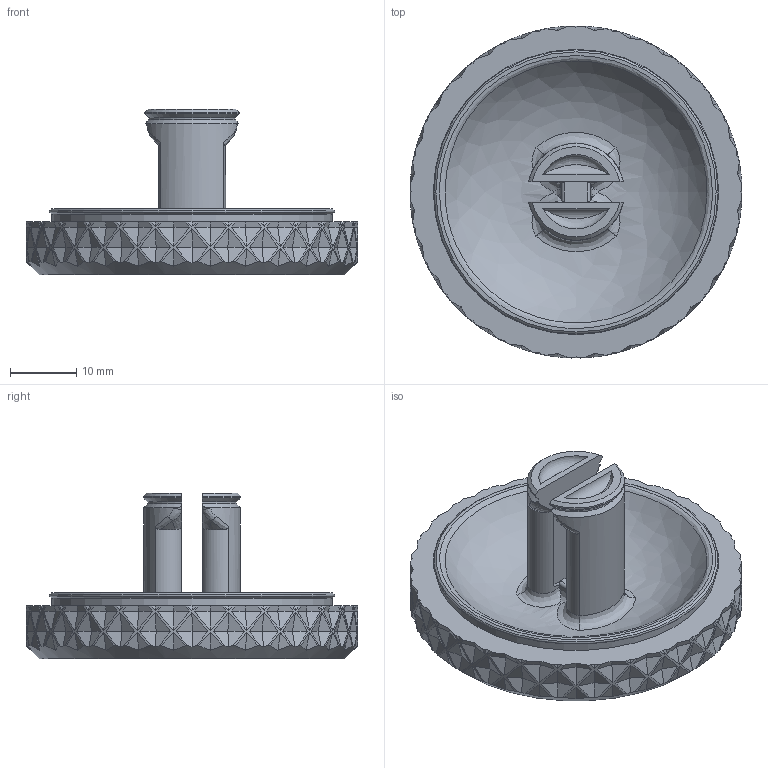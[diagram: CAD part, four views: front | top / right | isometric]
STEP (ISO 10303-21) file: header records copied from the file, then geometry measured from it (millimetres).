
FILE_DESCRIPTION(/* description */ (''),/* implementation_level */ '2;1');
FILE_NAME(/* name */ 'D:/3d print filer/STL filer/Cable Winder/STL/Version 4/Model 1/Step files/Model 1 Normal lid.step',/* time_stamp */ '2022-10-10T11:59:39+02:00',/* author */ (''),/* organization */ (''),/* preprocessor_version */ 'ST-DEVELOPER v19',/* originating_system */ 'Autodesk Translation Framework v11.7.0.108',/* authorisation */ '');
FILE_SCHEMA (('AUTOMOTIVE_DESIGN { 1 0 10303 214 3 1 1 }'));
Length unit declared in the file: millimetre
Products named in the file (1): Model 1 Normal lid
Bounding box: 50 x 50 x 25 mm (x, y, z)
Volume: 14332.9 mm3; surface area: 6803.6 mm2
Topology: 1 solids, 1 shells, 410 faces, 1153 edges, 745 vertices
Faces by surface type: plane 348, bspline 30, cylinder 16, cone 13, torus 3
Full cylindrical faces by diameter (mm): 42.2 x1, 50 x1
Entity records: 14841 total; most frequent: CARTESIAN_POINT 4454, ORIENTED_EDGE 2298, DIRECTION 2179, EDGE_CURVE 1149, AXIS2_PLACEMENT_3D 873, VERTEX_POINT 745, LINE 433, VECTOR 433
